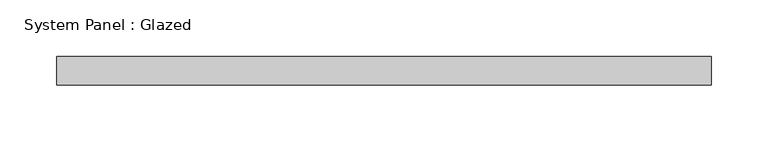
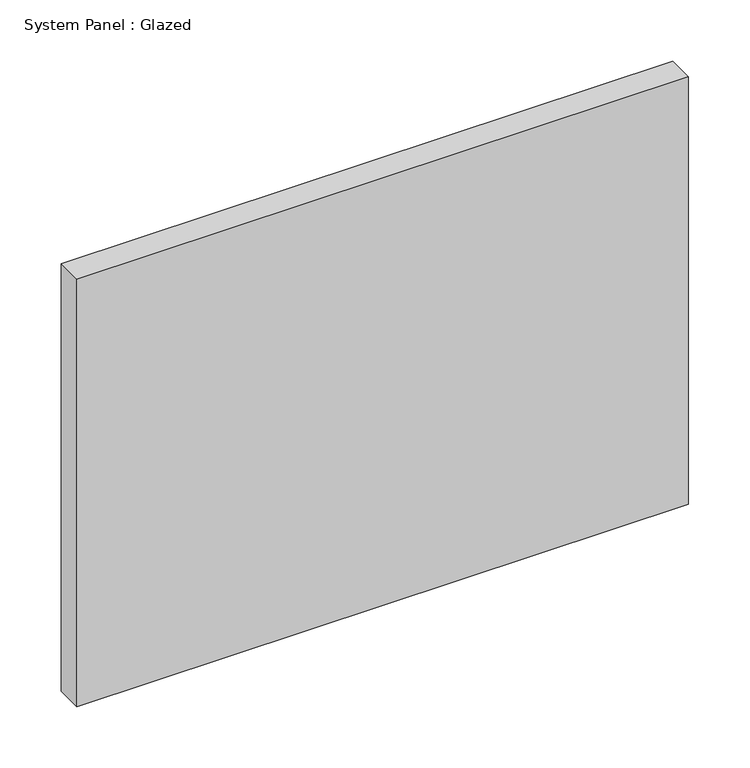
"""IFC4 building model written with IfcOpenShell, lengths in millimetres: plate geometry, System Panel : Glazed."""

import ifcopenshell
import ifcopenshell.guid

model = None  # the IFC model being written
_history = None  # IfcOwnerHistory: only IFC2X3 demands one
_inside = {}  # id of a spatial element -> (the spatial element, [elements in it])
_under = {}  # id of a project, library or spatial element -> (it, [spatial elements below it])
_declared = {}  # id of a project -> (the project, [libraries it declares])
_typed = {}  # id of a type object -> (the type object, [elements of that type])
_made_of = {}  # id of a material, layer set ... -> (it, [elements and type objects made of it])


def new_model(schema):
    """Start an empty IFC model of exactly this schema.

    Asked for "IFC4X3", IfcOpenShell would pick the latest addendum, in which some entities
    have other attributes; the version numbers below select the first issue.
    IFC2X3 requires an IfcOwnerHistory on every rooted entity: one is made here for all.
    """
    global model, _history
    if schema == "IFC4X3":
        model = ifcopenshell.file(schema_version=(4, 3, 0, 0))
    else:
        model = ifcopenshell.file(schema=schema)
    _inside.clear()
    _under.clear()
    _declared.clear()
    _typed.clear()
    _made_of.clear()
    _history = None
    if model.schema == "IFC2X3":
        org = make("IfcOrganization", Name="unknown")
        user = make(
            "IfcPersonAndOrganization",
            ThePerson=make("IfcPerson", FamilyName="unknown"),
            TheOrganization=org,
        )
        app = make(
            "IfcApplication",
            ApplicationDeveloper=org,
            Version="unknown",
            ApplicationFullName="unknown",
            ApplicationIdentifier="unknown",
        )
        _history = make(
            "IfcOwnerHistory",
            OwningUser=user,
            OwningApplication=app,
            ChangeAction="ADDED",
            CreationDate=0,
        )
    return model


def make(cls, **values):
    """One entity of the class cls with the attributes given. An attribute that is None is left unset."""
    return model.create_entity(
        cls, **{name: value for name, value in values.items() if value is not None}
    )


def rooted(cls, **values):
    """An entity with a GlobalId (a new one), such as an element, a storey or a relation."""
    return make(cls, GlobalId=ifcopenshell.guid.new(), OwnerHistory=_history, **values)


def si_unit(unit_type, name, prefix=None):
    """IfcSIUnit, for example si_unit("LENGTHUNIT", "METRE", prefix="MILLI")."""
    return make("IfcSIUnit", UnitType=unit_type, Prefix=prefix, Name=name)


def assignment(units):
    """IfcUnitAssignment: the units of a project."""
    return None if units is None else make("IfcUnitAssignment", Units=units)


def point(xyz):
    """IfcCartesianPoint."""
    return None if xyz is None else make("IfcCartesianPoint", Coordinates=xyz)


def direction(xyz):
    """IfcDirection."""
    return None if xyz is None else make("IfcDirection", DirectionRatios=xyz)


def frame(location, z_axis=None, x_axis=None):
    """IfcAxis2Placement3D, a coordinate frame: its origin and axes. An axis left out is left unset."""
    return make(
        "IfcAxis2Placement3D",
        Location=point(location),
        Axis=direction(z_axis),
        RefDirection=direction(x_axis),
    )


def origin():
    """The frame at (0, 0, 0) with its axes left unset."""
    return frame((0.0, 0.0, 0.0))


def origin_with_axes():
    """The frame at (0, 0, 0) with the z axis (0, 0, 1) and the x axis (1, 0, 0) written out."""
    return frame((0.0, 0.0, 0.0), z_axis=(0.0, 0.0, 1.0), x_axis=(1.0, 0.0, 0.0))


def place(relative_to, where):
    """IfcLocalPlacement: puts the frame where relative to a parent placement (None: the world)."""
    return make(
        "IfcLocalPlacement", PlacementRelTo=relative_to, RelativePlacement=where
    )


def context(
    kind, dimensions, precision=None, world=None, true_north=None, identifier=None
):
    """IfcGeometricRepresentationContext, for example the 3D "Model" context."""
    return make(
        "IfcGeometricRepresentationContext",
        ContextIdentifier=identifier,
        ContextType=kind,
        CoordinateSpaceDimension=dimensions,
        Precision=precision,
        WorldCoordinateSystem=world,
        TrueNorth=true_north,
    )


def project(units=None, contexts=None):
    """IfcProject with its units and contexts."""
    return rooted(
        "IfcProject",
        Name="project",
        RepresentationContexts=contexts,
        UnitsInContext=assignment(units),
    )


def spatial(cls, under=None, at=None, **own):
    """A site, building, storey or space (cls), placed at a placement, below another one or the project."""
    s = rooted(cls, ObjectPlacement=at, **own)
    if under is not None:
        _under.setdefault(under.id(), (under, []))[1].append(s)
    return s


def polyline(points):
    """IfcPolyline through the points."""
    return make("IfcPolyline", Points=[point(p) for p in points])


def outline(outer, holes=None, kind="AREA"):
    """IfcArbitraryClosedProfileDef: a profile drawn as a closed curve; with holes, ...WithVoids."""
    if holes is None:
        return make("IfcArbitraryClosedProfileDef", ProfileType=kind, OuterCurve=outer)
    return make(
        "IfcArbitraryProfileDefWithVoids",
        ProfileType=kind,
        OuterCurve=outer,
        InnerCurves=holes,
    )


def extrude(swept, where, along, depth):
    """IfcExtrudedAreaSolid: the profile swept, set in the frame where, extruded along a direction by depth."""
    return make(
        "IfcExtrudedAreaSolid",
        SweptArea=swept,
        Position=where,
        ExtrudedDirection=direction(along),
        Depth=depth,
    )


def shape(context_of_items, identifier, shape_type, items):
    """IfcShapeRepresentation: the items that make up one representation, for example the "Body"."""
    return make(
        "IfcShapeRepresentation",
        ContextOfItems=context_of_items,
        RepresentationIdentifier=identifier,
        RepresentationType=shape_type,
        Items=items,
    )


def source(mapping_origin, context_of_items, identifier, shape_type, items):
    """IfcRepresentationMap: a shape defined once, which mapped items show again and again."""
    return make(
        "IfcRepresentationMap",
        MappingOrigin=mapping_origin,
        MappedRepresentation=shape(context_of_items, identifier, shape_type, items),
    )


def transform(
    local_origin,
    x_axis=None,
    y_axis=None,
    z_axis=None,
    scale=None,
    scale2=None,
    scale3=None,
    uniform=True,
):
    """IfcCartesianTransformationOperator3D, or its non-uniform kind. x_axis, y_axis, z_axis: its Axis1, 2, 3."""
    if uniform:
        return make(
            "IfcCartesianTransformationOperator3D",
            Axis1=direction(x_axis),
            Axis2=direction(y_axis),
            LocalOrigin=point(local_origin),
            Scale=scale,
            Axis3=direction(z_axis),
        )
    return make(
        "IfcCartesianTransformationOperator3DnonUniform",
        Axis1=direction(x_axis),
        Axis2=direction(y_axis),
        LocalOrigin=point(local_origin),
        Scale=scale,
        Axis3=direction(z_axis),
        Scale2=scale2,
        Scale3=scale3,
    )


def mapped(mapping_source, mapping_target):
    """IfcMappedItem: shows the shape of a source again, moved by a transform."""
    return make(
        "IfcMappedItem", MappingSource=mapping_source, MappingTarget=mapping_target
    )


def made_of(thing, what):
    """Note that an element or type object is made of a material, layer set ...; save() writes the relation."""
    if what is not None:
        _made_of.setdefault(what.id(), (what, []))[1].append(thing)
    return thing


def element(
    cls,
    number,
    at=None,
    inside=None,
    cuts=None,
    type_object=None,
    material=None,
    context=None,
    identifier="Body",
    shape_type=None,
    held_by="IfcProductDefinitionShape",
    body=None,
    shapes=None,
    **own,
):
    """One element of the class cls, such as IfcWall. Its Tag is "e" and its number.

    at: its placement. inside: the storey or other place that contains it. cuts: it is an
    opening in that element (IfcRelVoidsElement). A single representation is given by context,
    identifier, shape_type and body (its items); several are given by shapes. held_by: the class
    of the entity that holds the representations. save() writes the other relations.
    """
    e = rooted(cls, Tag="e%d" % number, ObjectPlacement=at, **own)
    if body is not None:
        shapes = [shape(context, identifier, shape_type, body)]
    if shapes is not None:
        e.Representation = make(held_by, Representations=shapes)
    if inside is not None:
        _inside.setdefault(inside.id(), (inside, []))[1].append(e)
    if cuts is not None:
        rooted(
            "IfcRelVoidsElement", RelatingBuildingElement=cuts, RelatedOpeningElement=e
        )
    if type_object is not None:
        _typed.setdefault(type_object.id(), (type_object, []))[1].append(e)
    return made_of(e, material)


def aggregate(whole, parts):
    """IfcRelAggregates: a whole, such as a stair, and the parts it consists of."""
    return rooted("IfcRelAggregates", RelatingObject=whole, RelatedObjects=parts)


def save(model, path):
    """Write the relations noted so far, then the file.

    IfcRelAggregates (storeys below a building ...), IfcRelContainedInSpatialStructure (elements
    in a storey), IfcRelDefinesByType, IfcRelAssociatesMaterial and IfcRelDeclares: one each for
    every whole, place, type object, material and project.
    """
    for whole, parts in _under.values():
        aggregate(whole, parts)
    for where, things in _inside.values():
        rooted(
            "IfcRelContainedInSpatialStructure",
            RelatedElements=things,
            RelatingStructure=where,
        )
    for kind, things in _typed.values():
        rooted("IfcRelDefinesByType", RelatedObjects=things, RelatingType=kind)
    for what, things in _made_of.values():
        rooted("IfcRelAssociatesMaterial", RelatedObjects=things, RelatingMaterial=what)
    for by, libraries in _declared.values():
        rooted("IfcRelDeclares", RelatingContext=by, RelatedDefinitions=libraries)
    model.write(path)


def system_panel_glazed_5c27190a(model_context):
    return source(origin(), model_context, "Body", "SweptSolid", [
        extrude(outline(polyline([(287.5000001, 24.5), (-287.5000001, 24.5), (-287.5000001, 49.5), (287.5000001, 49.5), (287.5000001, 24.5)])), origin_with_axes(), (0.0, 0.0, 1.0), 425.0),
    ])


if __name__ == "__main__":
    model = new_model("IFC4")
    model_context = context("Model", 3, world=origin())
    ifc_project = project(units=[si_unit("LENGTHUNIT", "METRE", prefix="MILLI")], contexts=[model_context])
    site = spatial("IfcSite", under=ifc_project)
    building = spatial("IfcBuilding", under=site)
    placement = place(None, origin())
    system_panel_glazed_shape = system_panel_glazed_5c27190a(model_context)
    element("IfcPlate", 1, ObjectType="System Panel : Glazed", at=placement, inside=building, context=model_context, shape_type="MappedRepresentation", body=[
        mapped(system_panel_glazed_shape, transform((0.0, 0.0, 0.0), x_axis=(1.0, 0.0, 0.0), y_axis=(0.0, 1.0, 0.0), z_axis=(0.0, 0.0, 1.0))),
    ])
    save(model, "model.ifc")
